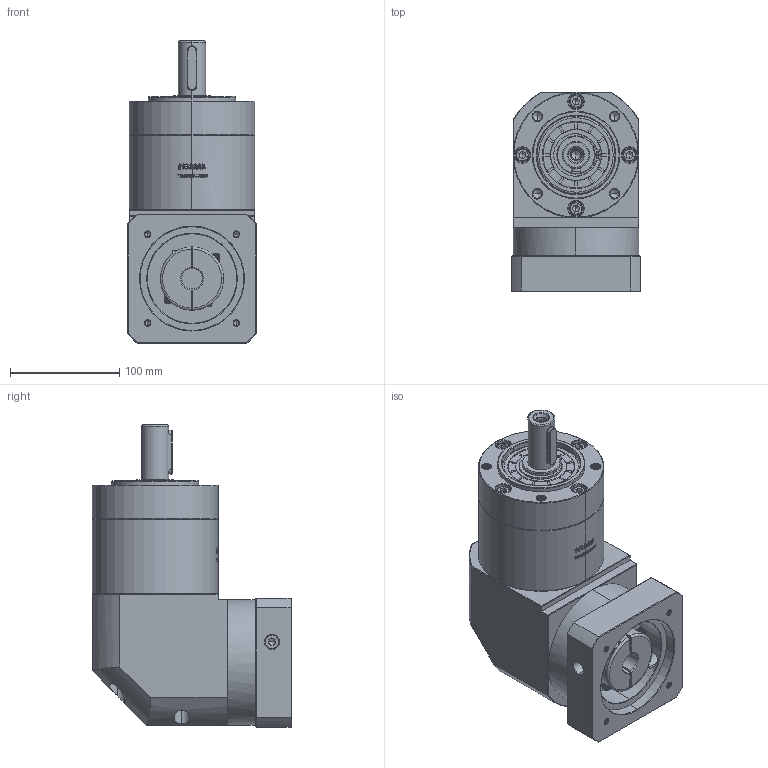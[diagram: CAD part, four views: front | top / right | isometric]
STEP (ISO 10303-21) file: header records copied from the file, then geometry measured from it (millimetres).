
FILE_DESCRIPTION (( 'STEP AP214' ), '1' );
FILE_NAME ('ZER120A-D25-L2-19-95-115-M6.step', '2023-03-14T08:15:57', ( '' ), ( '' ), 'SwSTEP 2.0', 'SolidWorks 2016', '' );
FILE_SCHEMA (( 'AUTOMOTIVE_DESIGN' ));
Length unit declared in the file: millimetre
Products named in the file (1): ZER120A-D25-L2-19-95-115-M6
Bounding box: 118 x 182.4 x 276.5 mm (x, y, z)
Volume: 3036126.1 mm3; surface area: 241074.4 mm2
Topology: 6 solids, 6 shells, 2942 faces, 7895 edges, 5096 vertices
Faces by surface type: plane 1462, bspline 622, cylinder 517, cone 333, torus 8
Entity records: 169650 total; most frequent: CARTESIAN_POINT 70283, ORIENTED_EDGE 15714, DIRECTION 11215, EDGE_CURVE 7857, VERTEX_POINT 5096, VECTOR 4783, LINE 4783, AXIS2_PLACEMENT_3D 3216
